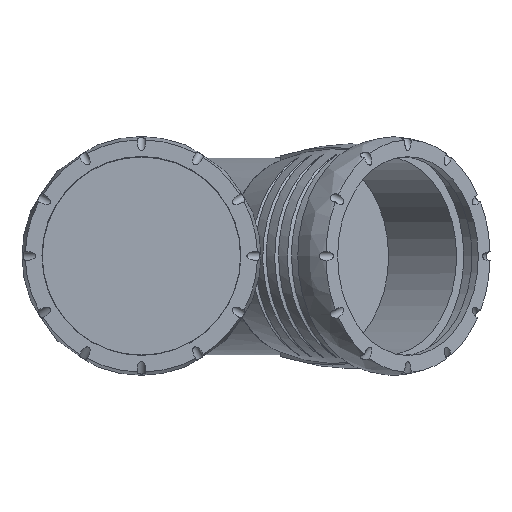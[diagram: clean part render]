
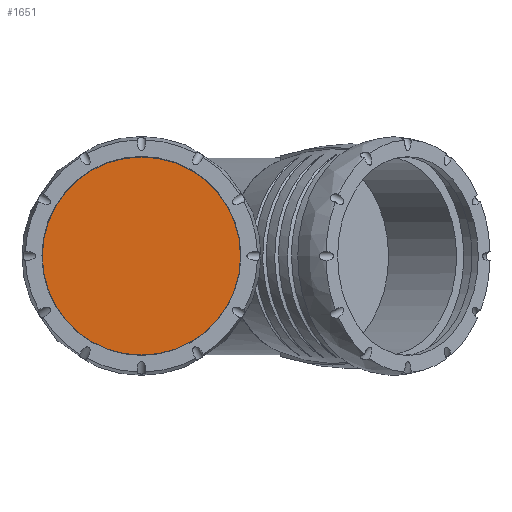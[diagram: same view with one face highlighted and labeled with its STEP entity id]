
A CAD part, top view. The second image highlights one B-rep face of the part: STEP entity #1651.
In plain terms, the highlighted planar face has unit normal (0, 0, 1).
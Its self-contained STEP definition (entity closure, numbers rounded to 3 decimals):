
#224=PLANE('',#1789);
#301=FACE_OUTER_BOUND('',#410,.T.);
#410=EDGE_LOOP('',(#1062));
#547=CIRCLE('',#1790,45.45);
#626=VERTEX_POINT('',#2362);
#805=EDGE_CURVE('',#626,#626,#547,.T.);
#1062=ORIENTED_EDGE('',*,*,#805,.T.);
#1651=ADVANCED_FACE('',(#301),#224,.T.);
#1789=AXIS2_PLACEMENT_3D('',#2361,#1999,#2000);
#1790=AXIS2_PLACEMENT_3D('',#2363,#2001,#2002);
#1999=DIRECTION('center_axis',(0.,0.,
1.));
#2000=DIRECTION('ref_axis',(0.,1.,0.));
#2001=DIRECTION('center_axis',(0.,0.,
1.));
#2002=DIRECTION('ref_axis',(0.,1.,0.));
#2361=CARTESIAN_POINT('Origin',(0.,0.,
199.2));
#2362=CARTESIAN_POINT('',(-45.45,0.,199.2));
#2363=CARTESIAN_POINT('Origin',(0.,0.,
199.2));
